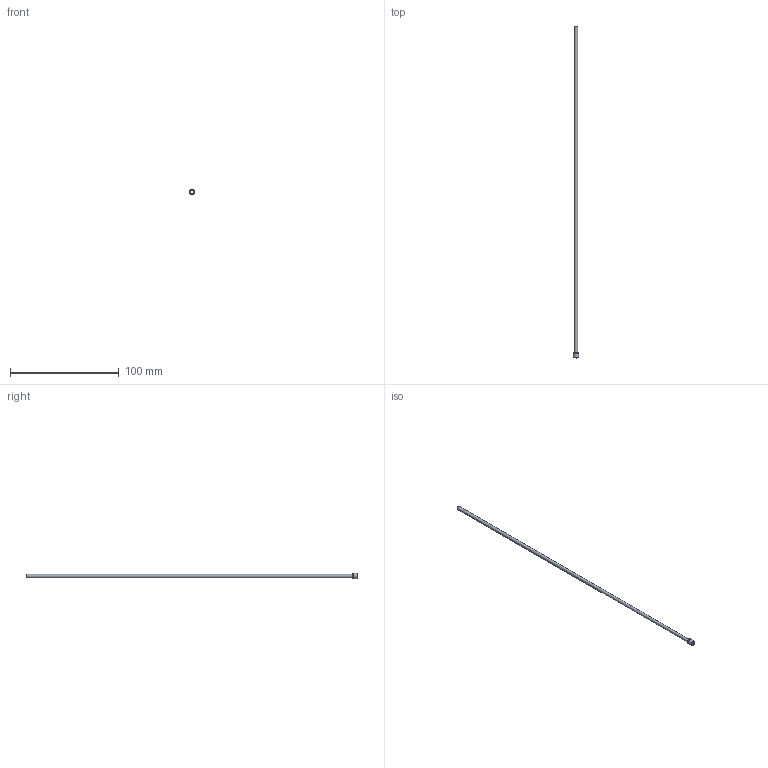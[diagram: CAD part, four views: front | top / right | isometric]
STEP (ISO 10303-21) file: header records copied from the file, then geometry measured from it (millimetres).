
FILE_DESCRIPTION(/* description */ (''),/* implementation_level */ '2;1');
FILE_NAME(/* name */ 'C:/Users/drich/Desktop/HF125T-12 v3.step',/* time_stamp */ '2019-12-30T13:26:16-06:00',/* author */ (''),/* organization */ (''),/* preprocessor_version */ 'ST-DEVELOPER v18',/* originating_system */ 'Autodesk Translation Framework v8.12.0.6',/* authorisation */ '');
FILE_SCHEMA (('AUTOMOTIVE_DESIGN { 1 0 10303 214 3 1 1 }'));
Length unit declared in the file: inch
Products named in the file (1): HF125T-12
Bounding box: 4.8 x 304.8 x 4.8 mm (x, y, z)
Volume: 628.2 mm3; surface area: 5736.8 mm2
Topology: 1 solids, 1 shells, 11 faces, 27 edges, 20 vertices
Faces by surface type: cylinder 4, plane 4, torus 2, cone 1
Full cylindrical faces by diameter (mm): 2.769 x1, 3.175 x1, 4.727 x1, 4.801 x1
Entity records: 390 total; most frequent: DIRECTION 73, CARTESIAN_POINT 59, ORIENTED_EDGE 54, AXIS2_PLACEMENT_3D 34, EDGE_CURVE 27, CIRCLE 22, VERTEX_POINT 20, EDGE_LOOP 15
